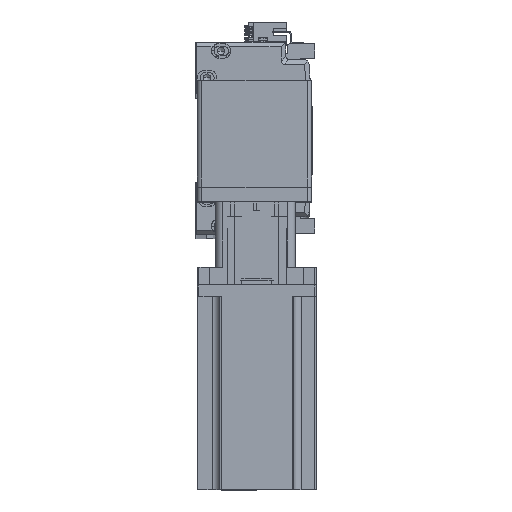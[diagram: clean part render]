
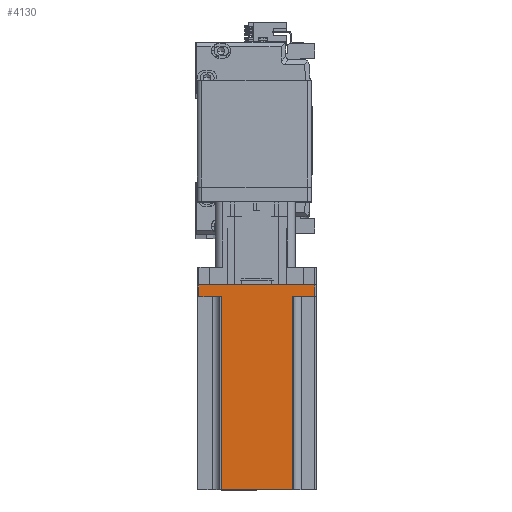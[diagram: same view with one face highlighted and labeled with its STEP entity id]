
A CAD part, top view. The second image highlights one B-rep face of the part: STEP entity #4130.
In plain terms, the highlighted planar face has unit normal (0, 0, 1) as drawn and (0, 1, 0) by its records, which use the part's own axes.
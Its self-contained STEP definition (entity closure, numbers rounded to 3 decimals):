
#905 = FACE_OUTER_BOUND ( 'NONE', #15016, .T. ) ;
#1419 = LINE ( 'NONE', #4499, #11701 ) ;
#1599 = DIRECTION ( 'NONE',  ( 0., 0., -1. ) ) ;
#1906 = ORIENTED_EDGE ( 'NONE', *, *, #21460, .F. ) ;
#2587 = PLANE ( 'NONE',  #47731 ) ;
#4130 = ADVANCED_FACE ( 'NONE', ( #905 ), #2587, .F. ) ;
#4499 = CARTESIAN_POINT ( 'NONE',  ( -39., 40., 138.3 ) ) ;
#5851 = DIRECTION ( 'NONE',  ( -1., 0., 0. ) ) ;
#5861 = CARTESIAN_POINT ( 'NONE',  ( -25., 40., 8. ) ) ;
#6491 = DIRECTION ( 'NONE',  ( 0., -1., 0. ) ) ;
#6560 = VECTOR ( 'NONE', #47465, 1000. ) ;
#6827 = EDGE_CURVE ( 'NONE', #38530, #49513, #42840, .T. ) ;
#7268 = EDGE_CURVE ( 'NONE', #38530, #32031, #16763, .T. ) ;
#8176 = DIRECTION ( 'NONE',  ( -1., 0., 0. ) ) ;
#8396 = CARTESIAN_POINT ( 'NONE',  ( -24., 40., 8. ) ) ;
#9001 = LINE ( 'NONE', #38736, #36148 ) ;
#9238 = CARTESIAN_POINT ( 'NONE',  ( 24., 40., 8. ) ) ;
#9746 = DIRECTION ( 'NONE',  ( 1., 0., 0. ) ) ;
#10722 = EDGE_CURVE ( 'NONE', #39661, #39199, #15902, .T. ) ;
#11701 = VECTOR ( 'NONE', #31479, 1000. ) ;
#11998 = VECTOR ( 'NONE', #5851, 1000. ) ;
#14569 = CARTESIAN_POINT ( 'NONE',  ( -39., 40., 0. ) ) ;
#15016 = EDGE_LOOP ( 'NONE', ( #28013, #33807, #39296, #48620, #1906, #24805, #44373, #40700 ) ) ;
#15902 = LINE ( 'NONE', #28603, #26220 ) ;
#15916 = EDGE_CURVE ( 'NONE', #43336, #49513, #43670, .T. ) ;
#16763 = LINE ( 'NONE', #28236, #6560 ) ;
#16866 = CARTESIAN_POINT ( 'NONE',  ( 40., 40., 0. ) ) ;
#20750 = DIRECTION ( 'NONE',  ( -1., 0., 0. ) ) ;
#21460 = EDGE_CURVE ( 'NONE', #39661, #32031, #9001, .T. ) ;
#21843 = CARTESIAN_POINT ( 'NONE',  ( 24., 40., 138.3 ) ) ;
#21922 = CARTESIAN_POINT ( 'NONE',  ( -39., 40., 8. ) ) ;
#24805 = ORIENTED_EDGE ( 'NONE', *, *, #10722, .T. ) ;
#25961 = LINE ( 'NONE', #16866, #46477 ) ;
#26220 = VECTOR ( 'NONE', #1599, 1000. ) ;
#27435 = LINE ( 'NONE', #5861, #36466 ) ;
#28013 = ORIENTED_EDGE ( 'NONE', *, *, #32055, .T. ) ;
#28236 = CARTESIAN_POINT ( 'NONE',  ( 24., 40., 138.3 ) ) ;
#28603 = CARTESIAN_POINT ( 'NONE',  ( 39., 40., 138.3 ) ) ;
#29008 = DIRECTION ( 'NONE',  ( 0., 0., 1. ) ) ;
#29589 = CARTESIAN_POINT ( 'NONE',  ( 40., 40., 138.3 ) ) ;
#29658 = VERTEX_POINT ( 'NONE', #21922 ) ;
#31479 = DIRECTION ( 'NONE',  ( 0., 0., 1. ) ) ;
#32031 = VERTEX_POINT ( 'NONE', #9238 ) ;
#32055 = EDGE_CURVE ( 'NONE', #29658, #43336, #27435, .T. ) ;
#32818 = CARTESIAN_POINT ( 'NONE',  ( 40., 40., 138.3 ) ) ;
#33361 = VECTOR ( 'NONE', #29008, 1000. ) ;
#33446 = DIRECTION ( 'NONE',  ( 1., 0., 0. ) ) ;
#33807 = ORIENTED_EDGE ( 'NONE', *, *, #15916, .T. ) ;
#36148 = VECTOR ( 'NONE', #8176, 1000. ) ;
#36466 = VECTOR ( 'NONE', #9746, 1000. ) ;
#36585 = CARTESIAN_POINT ( 'NONE',  ( -24., 40., 138.3 ) ) ;
#38530 = VERTEX_POINT ( 'NONE', #21843 ) ;
#38736 = CARTESIAN_POINT ( 'NONE',  ( 25., 40., 8. ) ) ;
#38958 = EDGE_CURVE ( 'NONE', #39199, #47487, #25961, .T. ) ;
#39199 = VERTEX_POINT ( 'NONE', #41743 ) ;
#39296 = ORIENTED_EDGE ( 'NONE', *, *, #6827, .F. ) ;
#39661 = VERTEX_POINT ( 'NONE', #44709 ) ;
#40700 = ORIENTED_EDGE ( 'NONE', *, *, #43331, .T. ) ;
#41743 = CARTESIAN_POINT ( 'NONE',  ( 39., 40., 0. ) ) ;
#42840 = LINE ( 'NONE', #32818, #11998 ) ;
#43331 = EDGE_CURVE ( 'NONE', #47487, #29658, #1419, .T. ) ;
#43336 = VERTEX_POINT ( 'NONE', #8396 ) ;
#43670 = LINE ( 'NONE', #36585, #33361 ) ;
#44373 = ORIENTED_EDGE ( 'NONE', *, *, #38958, .T. ) ;
#44709 = CARTESIAN_POINT ( 'NONE',  ( 39., 40., 8. ) ) ;
#46477 = VECTOR ( 'NONE', #20750, 1000. ) ;
#46675 = CARTESIAN_POINT ( 'NONE',  ( -24., 40., 138.3 ) ) ;
#47465 = DIRECTION ( 'NONE',  ( 0., 0., -1. ) ) ;
#47487 = VERTEX_POINT ( 'NONE', #14569 ) ;
#47731 = AXIS2_PLACEMENT_3D ( 'NONE', #29589, #6491, #33446 ) ;
#48620 = ORIENTED_EDGE ( 'NONE', *, *, #7268, .T. ) ;
#49513 = VERTEX_POINT ( 'NONE', #46675 ) ;
